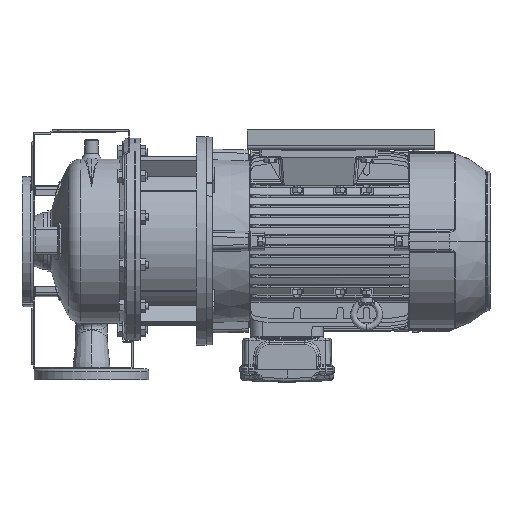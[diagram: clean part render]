
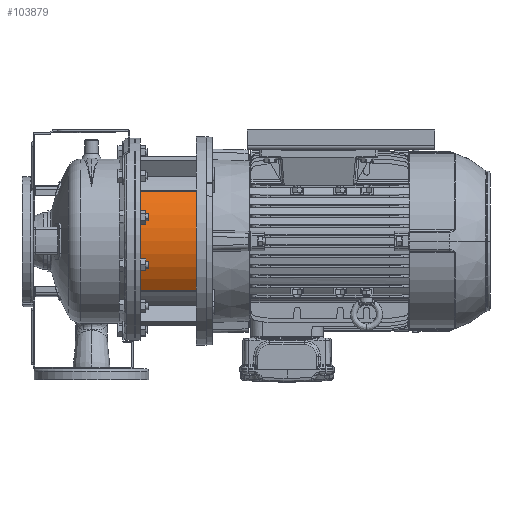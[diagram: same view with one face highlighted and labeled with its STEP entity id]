
A CAD part, left-side view. The second image highlights one B-rep face of the part: STEP entity #103879.
In plain terms, the highlighted cylindrical face has radius 112.5 mm (diameter 225 mm), a partial arc.
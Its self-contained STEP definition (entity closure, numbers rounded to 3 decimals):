
#5306 = ORIENTED_EDGE ( 'NONE', *, *, #7166, .T. ) ;
#7166 = EDGE_CURVE ( 'NONE', #62697, #62783, #49724, .T. ) ;
#8055 = CARTESIAN_POINT ( 'NONE',  ( -87.429, -101., -70.799 ) ) ;
#10208 = VERTEX_POINT ( 'NONE', #32896 ) ;
#10960 = CIRCLE ( 'NONE', #97578, 112.5 ) ;
#11579 = DIRECTION ( 'NONE',  ( 0., -1., 0. ) ) ;
#12381 = VECTOR ( 'NONE', #100417, 1000. ) ;
#13429 = VECTOR ( 'NONE', #90834, 1000. ) ;
#24627 = DIRECTION ( 'NONE',  ( 0., 1., 0. ) ) ;
#25566 = CARTESIAN_POINT ( 'NONE',  ( 0., -20., 0. ) ) ;
#26262 = DIRECTION ( 'NONE',  ( -0.777, 0., -0.629 ) ) ;
#27648 = EDGE_CURVE ( 'NONE', #62783, #88225, #10960, .T. ) ;
#32896 = CARTESIAN_POINT ( 'NONE',  ( -87.429, -20., 70.799 ) ) ;
#35217 = ORIENTED_EDGE ( 'NONE', *, *, #97983, .F. ) ;
#36380 = CARTESIAN_POINT ( 'NONE',  ( -87.429, -20., 70.799 ) ) ;
#38665 = CARTESIAN_POINT ( 'NONE',  ( -87.429, -20., -70.799 ) ) ;
#39291 = CARTESIAN_POINT ( 'NONE',  ( -87.429, -20., -70.799 ) ) ;
#42878 = FACE_OUTER_BOUND ( 'NONE', #50460, .T. ) ;
#49724 = LINE ( 'NONE', #39291, #13429 ) ;
#50460 = EDGE_LOOP ( 'NONE', ( #5306, #109841, #123813, #35217 ) ) ;
#54014 = DIRECTION ( 'NONE',  ( 1., 0., 0. ) ) ;
#57990 = DIRECTION ( 'NONE',  ( -0.777, 0., -0.629 ) ) ;
#62697 = VERTEX_POINT ( 'NONE', #38665 ) ;
#62783 = VERTEX_POINT ( 'NONE', #8055 ) ;
#64454 = CARTESIAN_POINT ( 'NONE',  ( 0., -20., 0. ) ) ;
#65941 = CIRCLE ( 'NONE', #121419, 112.5 ) ;
#80011 = AXIS2_PLACEMENT_3D ( 'NONE', #64454, #11579, #54014 ) ;
#87079 = CARTESIAN_POINT ( 'NONE',  ( -87.429, -101., 70.799 ) ) ;
#87986 = CARTESIAN_POINT ( 'NONE',  ( 0., -101., 0. ) ) ;
#88225 = VERTEX_POINT ( 'NONE', #87079 ) ;
#90668 = LINE ( 'NONE', #36380, #12381 ) ;
#90834 = DIRECTION ( 'NONE',  ( 0., -1., 0. ) ) ;
#97578 = AXIS2_PLACEMENT_3D ( 'NONE', #87986, #24627, #57990 ) ;
#97983 = EDGE_CURVE ( 'NONE', #62697, #10208, #65941, .T. ) ;
#100417 = DIRECTION ( 'NONE',  ( 0., -1., 0. ) ) ;
#103879 = ADVANCED_FACE ( 'NONE', ( #42878 ), #117333, .T. ) ;
#109841 = ORIENTED_EDGE ( 'NONE', *, *, #27648, .T. ) ;
#115443 = EDGE_CURVE ( 'NONE', #10208, #88225, #90668, .T. ) ;
#117333 = CYLINDRICAL_SURFACE ( 'NONE', #80011, 112.5 ) ;
#121419 = AXIS2_PLACEMENT_3D ( 'NONE', #25566, #132055, #26262 ) ;
#123813 = ORIENTED_EDGE ( 'NONE', *, *, #115443, .F. ) ;
#132055 = DIRECTION ( 'NONE',  ( 0., 1., 0. ) ) ;
